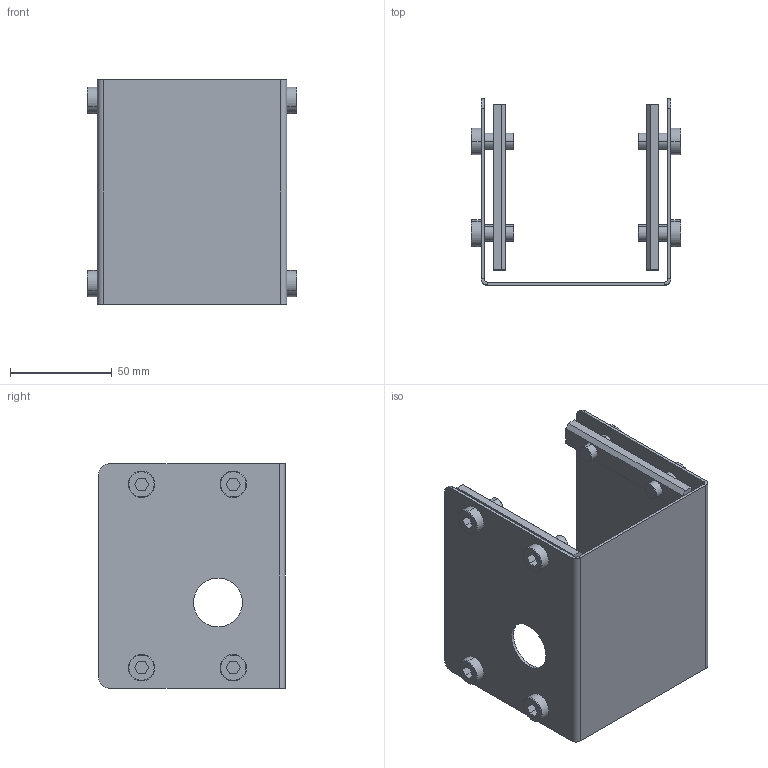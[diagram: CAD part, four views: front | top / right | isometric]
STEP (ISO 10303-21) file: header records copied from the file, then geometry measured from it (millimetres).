
FILE_DESCRIPTION (( 'STEP AP203' ), '1' );
FILE_NAME ('900.400.011.STEP', '2018-02-27T07:40:31', ( '' ), ( '' ), 'SwSTEP 2.0', 'SolidWorks 2016', '' );
FILE_SCHEMA (( 'CONFIG_CONTROL_DESIGN' ));
Length unit declared in the file: millimetre
Products named in the file (4): 084.301.000 VITI ALUSIC_084.301.002; 900.400.011-L; 900.400.011; 084.302.016
Assembly tree (13 placements, depth 2):
  900.400.011
    900.400.011-L
    084.302.016  x4
    084.301.000 VITI ALUSIC_084.301.002  x8
Bounding box: 103 x 91.5 x 110 mm (x, y, z)
Volume: 75372.6 mm3; surface area: 78874.1 mm2
Topology: 13 solids, 13 shells, 238 faces, 540 edges, 344 vertices
Faces by surface type: plane 130, cylinder 76, cone 16, torus 16
Entity records: 3008 total; most frequent: DIRECTION 446, CARTESIAN_POINT 392, ORIENTED_EDGE 368, EDGE_CURVE 184, AXIS2_PLACEMENT_3D 170, VERTEX_POINT 116, LINE 106, VECTOR 106
